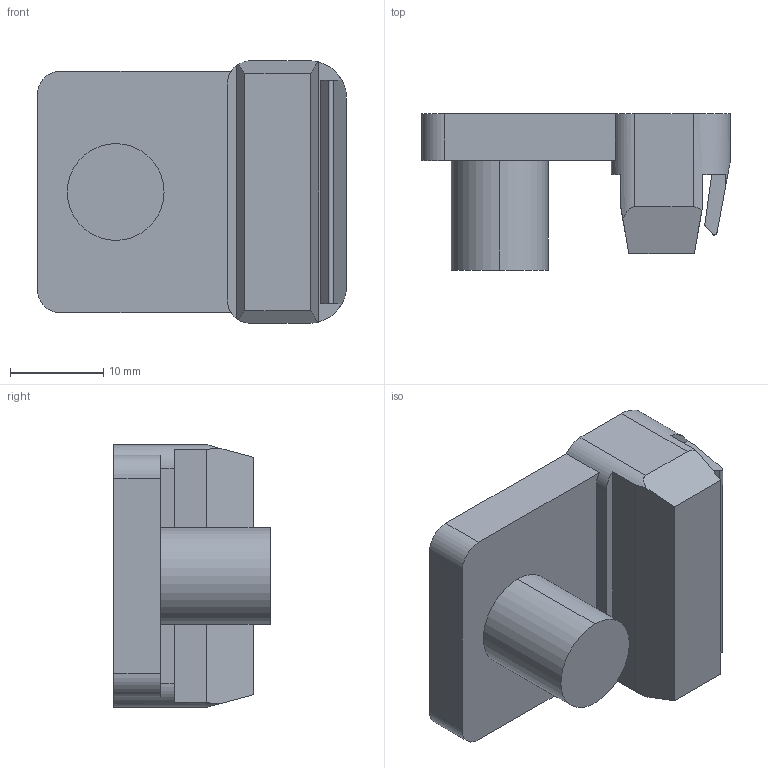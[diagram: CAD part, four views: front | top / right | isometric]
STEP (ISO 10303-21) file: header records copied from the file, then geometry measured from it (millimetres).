
FILE_DESCRIPTION (( 'STEP AP214' ), '1' );
FILE_NAME ('_Relingshalter_RückwandK615000200_einpressen_rechts.step', '2010-09-07T12:12:24', ( 'grass' ), ( '' ), 'SwSTEP 2.0', 'SolidWorks 2010', '' );
FILE_SCHEMA (( 'AUTOMOTIVE_DESIGN' ));
Length unit declared in the file: millimetre
Products named in the file (1): _Relingshalter_RückwandK615000200_einpressen_rechts
Bounding box: 33.2 x 16.8 x 28.2 mm (x, y, z)
Volume: 7974.2 mm3; surface area: 3737.8 mm2
Topology: 1 solids, 1 shells, 38 faces, 100 edges, 66 vertices
Faces by surface type: plane 25, cylinder 11, cone 2
Entity records: 1208 total; most frequent: CARTESIAN_POINT 235, ORIENTED_EDGE 200, DIRECTION 194, EDGE_CURVE 100, VERTEX_POINT 66, AXIS2_PLACEMENT_3D 65, VECTOR 64, LINE 64
